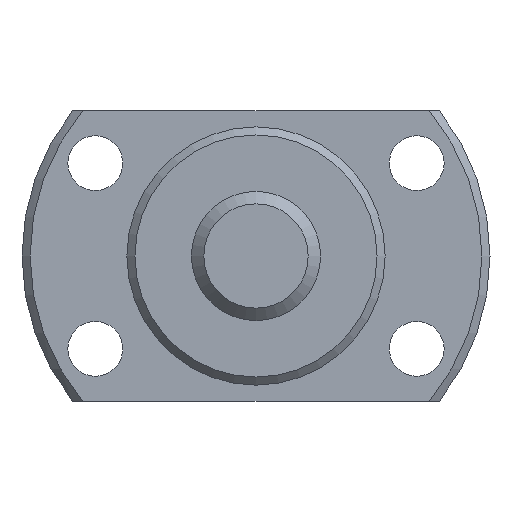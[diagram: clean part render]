
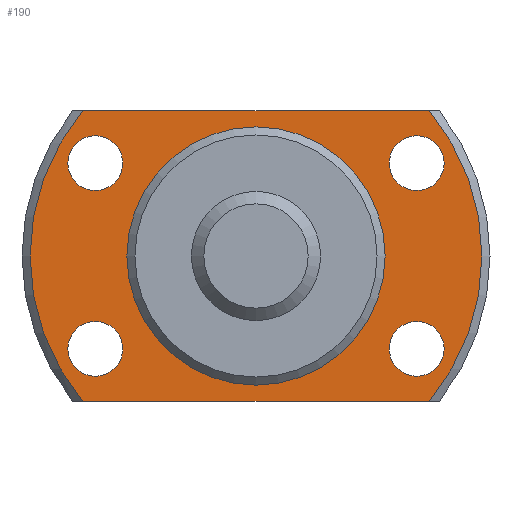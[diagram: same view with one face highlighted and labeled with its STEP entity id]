
A CAD part, left-side view. The second image highlights one B-rep face of the part: STEP entity #190.
In plain terms, the highlighted planar face has unit normal (-1, 0, 0).
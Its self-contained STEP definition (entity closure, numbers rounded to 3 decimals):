
#190 = ADVANCED_FACE( '', ( #255, #256, #257, #258, #259, #260 ), #261, .F. );
#255 = FACE_OUTER_BOUND( '', #335, .T. );
#256 = FACE_BOUND( '', #336, .T. );
#257 = FACE_BOUND( '', #337, .T. );
#258 = FACE_BOUND( '', #338, .T. );
#259 = FACE_BOUND( '', #339, .T. );
#260 = FACE_BOUND( '', #340, .T. );
#261 = PLANE( '', #341 );
#335 = EDGE_LOOP( '', ( #491, #492, #493, #494 ) );
#336 = EDGE_LOOP( '', ( #495 ) );
#337 = EDGE_LOOP( '', ( #496 ) );
#338 = EDGE_LOOP( '', ( #497 ) );
#339 = EDGE_LOOP( '', ( #498 ) );
#340 = EDGE_LOOP( '', ( #499 ) );
#341 = AXIS2_PLACEMENT_3D( '', #500, #501, #502 );
#491 = ORIENTED_EDGE( '', *, *, #542, .F. );
#492 = ORIENTED_EDGE( '', *, *, #551, .F. );
#493 = ORIENTED_EDGE( '', *, *, #554, .F. );
#494 = ORIENTED_EDGE( '', *, *, #540, .F. );
#495 = ORIENTED_EDGE( '', *, *, #564, .T. );
#496 = ORIENTED_EDGE( '', *, *, #566, .T. );
#497 = ORIENTED_EDGE( '', *, *, #565, .T. );
#498 = ORIENTED_EDGE( '', *, *, #552, .T. );
#499 = ORIENTED_EDGE( '', *, *, #568, .T. );
#500 = CARTESIAN_POINT( '', ( 12., 7.85, 0. ) );
#501 = DIRECTION( '', ( 1., 0., 0. ) );
#502 = DIRECTION( '', ( 0., 0., -1. ) );
#540 = EDGE_CURVE( '', #596, #598, #599, .T. );
#542 = EDGE_CURVE( '', #601, #596, #602, .T. );
#551 = EDGE_CURVE( '', #616, #601, #618, .T. );
#552 = EDGE_CURVE( '', #619, #619, #620, .T. );
#554 = EDGE_CURVE( '', #598, #616, #623, .T. );
#564 = EDGE_CURVE( '', #637, #637, #638, .T. );
#565 = EDGE_CURVE( '', #639, #639, #640, .T. );
#566 = EDGE_CURVE( '', #641, #641, #642, .T. );
#568 = EDGE_CURVE( '', #645, #645, #646, .T. );
#596 = VERTEX_POINT( '', #687 );
#598 = VERTEX_POINT( '', #692 );
#599 = LINE( '', #693, #694 );
#601 = VERTEX_POINT( '', #699 );
#602 = CIRCLE( '', #700, 14. );
#616 = VERTEX_POINT( '', #726 );
#618 = LINE( '', #731, #732 );
#619 = VERTEX_POINT( '', #733 );
#620 = CIRCLE( '', #734, 1.7 );
#623 = CIRCLE( '', #737, 14. );
#637 = VERTEX_POINT( '', #751 );
#638 = CIRCLE( '', #752, 1.7 );
#639 = VERTEX_POINT( '', #753 );
#640 = CIRCLE( '', #754, 1.7 );
#641 = VERTEX_POINT( '', #755 );
#642 = CIRCLE( '', #756, 1.7 );
#645 = VERTEX_POINT( '', #759 );
#646 = CIRCLE( '', #760, 7.85 );
#687 = CARTESIAN_POINT( '', ( 12., 10.724, 9. ) );
#692 = CARTESIAN_POINT( '', ( 12., -10.724, 9. ) );
#693 = CARTESIAN_POINT( '', ( 12., 19.5, 9. ) );
#694 = VECTOR( '', #790, 1000. );
#699 = CARTESIAN_POINT( '', ( 12., 10.724, -9. ) );
#700 = AXIS2_PLACEMENT_3D( '', #791, #792, #793 );
#726 = CARTESIAN_POINT( '', ( 12., -10.724, -9. ) );
#731 = CARTESIAN_POINT( '', ( 12., -19.5, -9. ) );
#732 = VECTOR( '', #800, 1000. );
#733 = CARTESIAN_POINT( '', ( 12., 9.959, 4.05 ) );
#734 = AXIS2_PLACEMENT_3D( '', #801, #802, #803 );
#737 = AXIS2_PLACEMENT_3D( '', #807, #808, #809 );
#751 = CARTESIAN_POINT( '', ( 12., -9.959, -7.45 ) );
#752 = AXIS2_PLACEMENT_3D( '', #837, #838, #839 );
#753 = CARTESIAN_POINT( '', ( 12., 9.959, -7.45 ) );
#754 = AXIS2_PLACEMENT_3D( '', #840, #841, #842 );
#755 = CARTESIAN_POINT( '', ( 12., -9.959, 4.05 ) );
#756 = AXIS2_PLACEMENT_3D( '', #843, #844, #845 );
#759 = CARTESIAN_POINT( '', ( 12., 0., -7.85 ) );
#760 = AXIS2_PLACEMENT_3D( '', #849, #850, #851 );
#790 = DIRECTION( '', ( 0., -1., 0. ) );
#791 = CARTESIAN_POINT( '', ( 12., 0., 0. ) );
#792 = DIRECTION( '', ( 1., 0., 0. ) );
#793 = DIRECTION( '', ( 0., 0., -1. ) );
#800 = DIRECTION( '', ( 0., 1., 0. ) );
#801 = CARTESIAN_POINT( '', ( 12., 9.959, 5.75 ) );
#802 = DIRECTION( '', ( 1., 0., 0. ) );
#803 = DIRECTION( '', ( 0., 0., -1. ) );
#807 = CARTESIAN_POINT( '', ( 12., 0., 0. ) );
#808 = DIRECTION( '', ( 1., 0., 0. ) );
#809 = DIRECTION( '', ( 0., 0., -1. ) );
#837 = CARTESIAN_POINT( '', ( 12., -9.959, -5.75 ) );
#838 = DIRECTION( '', ( 1., 0., 0. ) );
#839 = DIRECTION( '', ( 0., 0., -1. ) );
#840 = CARTESIAN_POINT( '', ( 12., 9.959, -5.75 ) );
#841 = DIRECTION( '', ( 1., 0., 0. ) );
#842 = DIRECTION( '', ( 0., 0., -1. ) );
#843 = CARTESIAN_POINT( '', ( 12., -9.959, 5.75 ) );
#844 = DIRECTION( '', ( 1., 0., 0. ) );
#845 = DIRECTION( '', ( 0., 0., -1. ) );
#849 = CARTESIAN_POINT( '', ( 12., 0., 0. ) );
#850 = DIRECTION( '', ( 1., 0., 0. ) );
#851 = DIRECTION( '', ( 0., 0., -1. ) );
